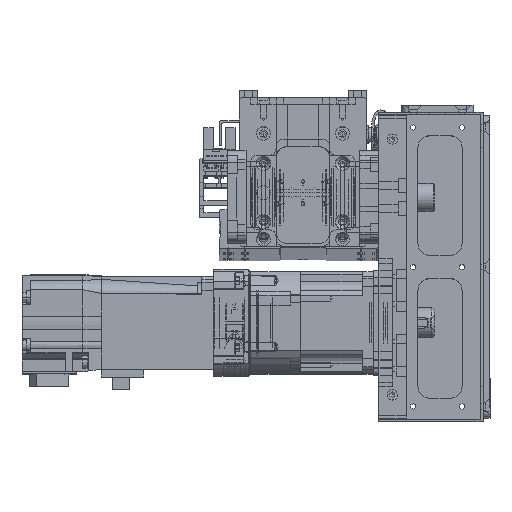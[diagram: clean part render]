
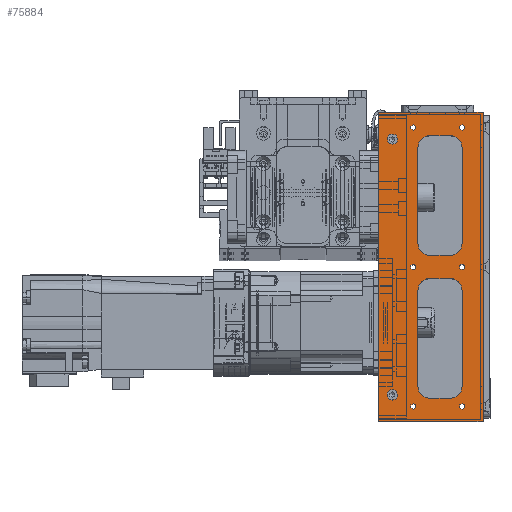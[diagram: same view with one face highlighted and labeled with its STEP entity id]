
A CAD part, top view. The second image highlights one B-rep face of the part: STEP entity #75884.
In plain terms, the highlighted planar face has unit normal (0, 0, 1) as drawn and (0, 1, 0) by its records, which use the part's own axes.
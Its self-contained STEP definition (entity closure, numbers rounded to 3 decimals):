
#1813=FACE_BOUND('',#12111,.T.);
#1814=FACE_BOUND('',#12112,.T.);
#1815=FACE_BOUND('',#12113,.T.);
#1816=FACE_BOUND('',#12114,.T.);
#1817=FACE_BOUND('',#12115,.T.);
#1818=FACE_BOUND('',#12116,.T.);
#1819=FACE_BOUND('',#12117,.T.);
#1820=FACE_BOUND('',#12118,.T.);
#1821=FACE_BOUND('',#12119,.T.);
#1822=FACE_BOUND('',#12120,.T.);
#3556=PLANE('',#83505);
#7485=FACE_OUTER_BOUND('',#12110,.T.);
#12110=EDGE_LOOP('',(#65620,#65621,#65622,#65623));
#12111=EDGE_LOOP('',(#65624));
#12112=EDGE_LOOP('',(#65625));
#12113=EDGE_LOOP('',(#65626));
#12114=EDGE_LOOP('',(#65627));
#12115=EDGE_LOOP('',(#65628));
#12116=EDGE_LOOP('',(#65629));
#12117=EDGE_LOOP('',(#65630));
#12118=EDGE_LOOP('',(#65631));
#12119=EDGE_LOOP('',(#65632,#65633,#65634,#65635,#65636,#65637,#65638,#65639));
#12120=EDGE_LOOP('',(#65640,#65641,#65642,#65643,#65644,#65645,#65646,#65647));
#16246=CIRCLE('',#83326,2.25);
#16250=CIRCLE('',#83332,2.25);
#16261=CIRCLE('',#83353,1.23);
#16265=CIRCLE('',#83359,1.23);
#16269=CIRCLE('',#83365,1.23);
#16273=CIRCLE('',#83371,1.23);
#16277=CIRCLE('',#83377,1.23);
#16281=CIRCLE('',#83383,1.23);
#16314=CIRCLE('',#83436,5.);
#16318=CIRCLE('',#83445,5.);
#16322=CIRCLE('',#83451,5.);
#16324=CIRCLE('',#83457,5.);
#16330=CIRCLE('',#83468,5.);
#16334=CIRCLE('',#83477,5.);
#16338=CIRCLE('',#83483,5.);
#16340=CIRCLE('',#83489,5.);
#21059=LINE('',#126515,#28759);
#21074=LINE('',#126545,#28774);
#21145=LINE('',#126835,#28845);
#21150=LINE('',#126846,#28850);
#21157=LINE('',#126871,#28857);
#21162=LINE('',#126882,#28862);
#21177=LINE('',#126931,#28877);
#21182=LINE('',#126942,#28882);
#21189=LINE('',#126967,#28889);
#21194=LINE('',#126978,#28894);
#21214=LINE('',#127028,#28914);
#21215=LINE('',#127030,#28915);
#28759=VECTOR('',#100196,10.);
#28774=VECTOR('',#100215,10.);
#28845=VECTOR('',#100530,10.);
#28850=VECTOR('',#100539,10.);
#28857=VECTOR('',#100566,10.);
#28862=VECTOR('',#100575,10.);
#28877=VECTOR('',#100626,10.);
#28882=VECTOR('',#100635,10.);
#28889=VECTOR('',#100662,10.);
#28894=VECTOR('',#100671,10.);
#28914=VECTOR('',#100727,10.);
#28915=VECTOR('',#100730,10.);
#36841=VERTEX_POINT('',#126512);
#36842=VERTEX_POINT('',#126514);
#36855=VERTEX_POINT('',#126543);
#36860=VERTEX_POINT('',#126563);
#36864=VERTEX_POINT('',#126575);
#36883=VERTEX_POINT('',#126633);
#36887=VERTEX_POINT('',#126645);
#36891=VERTEX_POINT('',#126657);
#36895=VERTEX_POINT('',#126669);
#36899=VERTEX_POINT('',#126681);
#36903=VERTEX_POINT('',#126693);
#36945=VERTEX_POINT('',#126816);
#36946=VERTEX_POINT('',#126818);
#36952=VERTEX_POINT('',#126833);
#36956=VERTEX_POINT('',#126845);
#36958=VERTEX_POINT('',#126851);
#36962=VERTEX_POINT('',#126863);
#36964=VERTEX_POINT('',#126869);
#36968=VERTEX_POINT('',#126881);
#36977=VERTEX_POINT('',#126912);
#36978=VERTEX_POINT('',#126914);
#36984=VERTEX_POINT('',#126929);
#36988=VERTEX_POINT('',#126941);
#36990=VERTEX_POINT('',#126947);
#36994=VERTEX_POINT('',#126959);
#36996=VERTEX_POINT('',#126965);
#37000=VERTEX_POINT('',#126977);
#37012=VERTEX_POINT('',#127026);
#46650=EDGE_CURVE('',#36841,#36842,#21059,.T.);
#46666=EDGE_CURVE('',#36855,#36841,#21074,.T.);
#46676=EDGE_CURVE('',#36860,#36860,#16246,.T.);
#46682=EDGE_CURVE('',#36864,#36864,#16250,.T.);
#46710=EDGE_CURVE('',#36883,#36883,#16261,.T.);
#46716=EDGE_CURVE('',#36887,#36887,#16265,.T.);
#46722=EDGE_CURVE('',#36891,#36891,#16269,.T.);
#46728=EDGE_CURVE('',#36895,#36895,#16273,.T.);
#46734=EDGE_CURVE('',#36899,#36899,#16277,.T.);
#46740=EDGE_CURVE('',#36903,#36903,#16281,.T.);
#46802=EDGE_CURVE('',#36946,#36945,#16314,.T.);
#46810=EDGE_CURVE('',#36945,#36952,#21145,.T.);
#46815=EDGE_CURVE('',#36956,#36946,#21150,.T.);
#46819=EDGE_CURVE('',#36952,#36958,#16318,.T.);
#46824=EDGE_CURVE('',#36962,#36956,#16322,.T.);
#46828=EDGE_CURVE('',#36958,#36964,#21157,.T.);
#46833=EDGE_CURVE('',#36968,#36962,#21162,.T.);
#46836=EDGE_CURVE('',#36964,#36968,#16324,.T.);
#46850=EDGE_CURVE('',#36978,#36977,#16330,.T.);
#46858=EDGE_CURVE('',#36977,#36984,#21177,.T.);
#46863=EDGE_CURVE('',#36988,#36978,#21182,.T.);
#46867=EDGE_CURVE('',#36984,#36990,#16334,.T.);
#46872=EDGE_CURVE('',#36994,#36988,#16338,.T.);
#46876=EDGE_CURVE('',#36990,#36996,#21189,.T.);
#46881=EDGE_CURVE('',#37000,#36994,#21194,.T.);
#46884=EDGE_CURVE('',#36996,#37000,#16340,.T.);
#46907=EDGE_CURVE('',#37012,#36842,#21214,.T.);
#46908=EDGE_CURVE('',#36855,#37012,#21215,.T.);
#65620=ORIENTED_EDGE('',*,*,#46908,.T.);
#65621=ORIENTED_EDGE('',*,*,#46907,.T.);
#65622=ORIENTED_EDGE('',*,*,#46650,.F.);
#65623=ORIENTED_EDGE('',*,*,#46666,.F.);
#65624=ORIENTED_EDGE('',*,*,#46676,.T.);
#65625=ORIENTED_EDGE('',*,*,#46682,.T.);
#65626=ORIENTED_EDGE('',*,*,#46710,.T.);
#65627=ORIENTED_EDGE('',*,*,#46716,.T.);
#65628=ORIENTED_EDGE('',*,*,#46722,.T.);
#65629=ORIENTED_EDGE('',*,*,#46728,.T.);
#65630=ORIENTED_EDGE('',*,*,#46734,.T.);
#65631=ORIENTED_EDGE('',*,*,#46740,.T.);
#65632=ORIENTED_EDGE('',*,*,#46836,.T.);
#65633=ORIENTED_EDGE('',*,*,#46833,.T.);
#65634=ORIENTED_EDGE('',*,*,#46824,.T.);
#65635=ORIENTED_EDGE('',*,*,#46815,.T.);
#65636=ORIENTED_EDGE('',*,*,#46802,.T.);
#65637=ORIENTED_EDGE('',*,*,#46810,.T.);
#65638=ORIENTED_EDGE('',*,*,#46819,.T.);
#65639=ORIENTED_EDGE('',*,*,#46828,.T.);
#65640=ORIENTED_EDGE('',*,*,#46884,.T.);
#65641=ORIENTED_EDGE('',*,*,#46881,.T.);
#65642=ORIENTED_EDGE('',*,*,#46872,.T.);
#65643=ORIENTED_EDGE('',*,*,#46863,.T.);
#65644=ORIENTED_EDGE('',*,*,#46850,.T.);
#65645=ORIENTED_EDGE('',*,*,#46858,.T.);
#65646=ORIENTED_EDGE('',*,*,#46867,.T.);
#65647=ORIENTED_EDGE('',*,*,#46876,.T.);
#75884=ADVANCED_FACE('',(#7485,#1813,#1814,#1815,#1816,#1817,#1818,#1819,
#1820,#1821,#1822),#3556,.T.);
#83326=AXIS2_PLACEMENT_3D('',#126565,#100237,#100238);
#83332=AXIS2_PLACEMENT_3D('',#126577,#100251,#100252);
#83353=AXIS2_PLACEMENT_3D('',#126634,#100310,#100311);
#83359=AXIS2_PLACEMENT_3D('',#126646,#100324,#100325);
#83365=AXIS2_PLACEMENT_3D('',#126658,#100338,#100339);
#83371=AXIS2_PLACEMENT_3D('',#126670,#100352,#100353);
#83377=AXIS2_PLACEMENT_3D('',#126682,#100366,#100367);
#83383=AXIS2_PLACEMENT_3D('',#126694,#100380,#100381);
#83436=AXIS2_PLACEMENT_3D('',#126819,#100515,#100516);
#83445=AXIS2_PLACEMENT_3D('',#126853,#100546,#100547);
#83451=AXIS2_PLACEMENT_3D('',#126864,#100559,#100560);
#83457=AXIS2_PLACEMENT_3D('',#126886,#100581,#100582);
#83468=AXIS2_PLACEMENT_3D('',#126915,#100611,#100612);
#83477=AXIS2_PLACEMENT_3D('',#126949,#100642,#100643);
#83483=AXIS2_PLACEMENT_3D('',#126960,#100655,#100656);
#83489=AXIS2_PLACEMENT_3D('',#126982,#100677,#100678);
#83505=AXIS2_PLACEMENT_3D('',#127029,#100728,#100729);
#100196=DIRECTION('',(1.,0.,0.));
#100215=DIRECTION('',(0.,0.,-1.));
#100237=DIRECTION('center_axis',(0.,-1.,0.));
#100238=DIRECTION('ref_axis',(1.,0.,0.));
#100251=DIRECTION('center_axis',(0.,-1.,0.));
#100252=DIRECTION('ref_axis',(1.,0.,0.));
#100310=DIRECTION('center_axis',(0.,-1.,0.));
#100311=DIRECTION('ref_axis',(1.,0.,0.));
#100324=DIRECTION('center_axis',(0.,-1.,0.));
#100325=DIRECTION('ref_axis',(1.,0.,0.));
#100338=DIRECTION('center_axis',(0.,-1.,0.));
#100339=DIRECTION('ref_axis',(1.,0.,0.));
#100352=DIRECTION('center_axis',(0.,-1.,0.));
#100353=DIRECTION('ref_axis',(1.,0.,0.));
#100366=DIRECTION('center_axis',(0.,-1.,0.));
#100367=DIRECTION('ref_axis',(1.,0.,0.));
#100380=DIRECTION('center_axis',(0.,-1.,0.));
#100381=DIRECTION('ref_axis',(1.,0.,0.));
#100515=DIRECTION('center_axis',(0.,-1.,0.));
#100516=DIRECTION('ref_axis',(0.,0.,-1.));
#100530=DIRECTION('',(-1.,0.,0.));
#100539=DIRECTION('',(0.,0.,1.));
#100546=DIRECTION('center_axis',(0.,-1.,0.));
#100547=DIRECTION('ref_axis',(1.,0.,0.));
#100559=DIRECTION('center_axis',(0.,-1.,0.));
#100560=DIRECTION('ref_axis',(-1.,0.,0.));
#100566=DIRECTION('',(0.,0.,-1.));
#100575=DIRECTION('',(1.,0.,0.));
#100581=DIRECTION('center_axis',(0.,-1.,0.));
#100582=DIRECTION('ref_axis',(0.,0.,1.));
#100611=DIRECTION('center_axis',(0.,-1.,0.));
#100612=DIRECTION('ref_axis',(1.,0.,0.));
#100626=DIRECTION('',(0.,0.,-1.));
#100635=DIRECTION('',(-1.,0.,0.));
#100642=DIRECTION('center_axis',(0.,-1.,0.));
#100643=DIRECTION('ref_axis',(0.,0.,1.));
#100655=DIRECTION('center_axis',(0.,-1.,0.));
#100656=DIRECTION('ref_axis',(0.,0.,-1.));
#100662=DIRECTION('',(1.,0.,0.));
#100671=DIRECTION('',(0.,0.,1.));
#100677=DIRECTION('center_axis',(0.,-1.,0.));
#100678=DIRECTION('ref_axis',(-1.,0.,0.));
#100727=DIRECTION('',(0.,0.,-1.));
#100728=DIRECTION('center_axis',(0.,1.,0.));
#100729=DIRECTION('ref_axis',(1.,0.,0.));
#100730=DIRECTION('',(1.,0.,0.));
#126512=CARTESIAN_POINT('',(-66.5,28.,-45.));
#126514=CARTESIAN_POINT('',(66.5,28.,-45.));
#126515=CARTESIAN_POINT('',(-66.5,28.,-45.));
#126543=CARTESIAN_POINT('',(-66.5,28.,0.));
#126545=CARTESIAN_POINT('',(-66.5,28.,0.));
#126563=CARTESIAN_POINT('',(52.75,28.,-39.));
#126565=CARTESIAN_POINT('Origin',(55.,28.,-39.));
#126575=CARTESIAN_POINT('',(-57.25,28.,-39.));
#126577=CARTESIAN_POINT('Origin',(-55.,28.,-39.));
#126633=CARTESIAN_POINT('',(58.771,28.,-30.));
#126634=CARTESIAN_POINT('Origin',(60.,28.,-30.));
#126645=CARTESIAN_POINT('',(-61.23,28.,-30.));
#126646=CARTESIAN_POINT('Origin',(-60.,28.,-30.));
#126657=CARTESIAN_POINT('',(-1.23,28.,-30.));
#126658=CARTESIAN_POINT('Origin',(0.,28.,-30.));
#126669=CARTESIAN_POINT('',(-1.23,28.,-9.));
#126670=CARTESIAN_POINT('Origin',(0.,28.,-9.));
#126681=CARTESIAN_POINT('',(-61.23,28.,-9.));
#126682=CARTESIAN_POINT('Origin',(-60.,28.,-9.));
#126693=CARTESIAN_POINT('',(58.771,28.,-9.));
#126694=CARTESIAN_POINT('Origin',(60.,28.,-9.));
#126816=CARTESIAN_POINT('',(-10.,28.,-9.));
#126818=CARTESIAN_POINT('',(-5.,28.,-14.));
#126819=CARTESIAN_POINT('Origin',(-10.,28.,-14.));
#126833=CARTESIAN_POINT('',(-51.5,28.,-9.));
#126835=CARTESIAN_POINT('',(-38.25,28.,-9.));
#126845=CARTESIAN_POINT('',(-5.,28.,-23.));
#126846=CARTESIAN_POINT('',(-5.,28.,-11.5));
#126851=CARTESIAN_POINT('',(-56.5,28.,-14.));
#126853=CARTESIAN_POINT('Origin',(-51.5,28.,-14.));
#126863=CARTESIAN_POINT('',(-10.,28.,-28.));
#126864=CARTESIAN_POINT('Origin',(-10.,28.,-23.));
#126869=CARTESIAN_POINT('',(-56.5,28.,-23.));
#126871=CARTESIAN_POINT('',(-56.5,28.,-7.));
#126881=CARTESIAN_POINT('',(-51.5,28.,-28.));
#126882=CARTESIAN_POINT('',(-59.,28.,-28.));
#126886=CARTESIAN_POINT('Origin',(-51.5,28.,-23.));
#126912=CARTESIAN_POINT('',(5.,28.,-14.));
#126914=CARTESIAN_POINT('',(10.,28.,-9.));
#126915=CARTESIAN_POINT('Origin',(10.,28.,-14.));
#126929=CARTESIAN_POINT('',(5.,28.,-23.));
#126931=CARTESIAN_POINT('',(5.,28.,-7.));
#126941=CARTESIAN_POINT('',(51.5,28.,-9.));
#126942=CARTESIAN_POINT('',(-7.5,28.,-9.));
#126947=CARTESIAN_POINT('',(10.,28.,-28.));
#126949=CARTESIAN_POINT('Origin',(10.,28.,-23.));
#126959=CARTESIAN_POINT('',(56.5,28.,-14.));
#126960=CARTESIAN_POINT('Origin',(51.5,28.,-14.));
#126965=CARTESIAN_POINT('',(51.5,28.,-28.));
#126967=CARTESIAN_POINT('',(-28.25,28.,-28.));
#126977=CARTESIAN_POINT('',(56.5,28.,-23.));
#126978=CARTESIAN_POINT('',(56.5,28.,-11.5));
#126982=CARTESIAN_POINT('Origin',(51.5,28.,-23.));
#127026=CARTESIAN_POINT('',(66.5,28.,0.));
#127028=CARTESIAN_POINT('',(66.5,28.,0.));
#127029=CARTESIAN_POINT('Origin',(-66.5,28.,0.));
#127030=CARTESIAN_POINT('',(-66.5,28.,0.));
